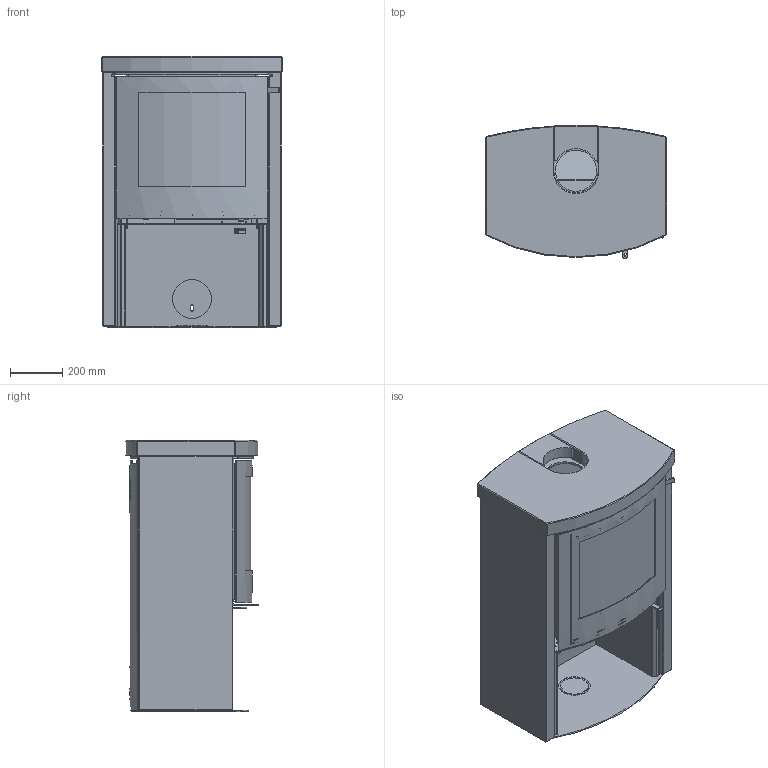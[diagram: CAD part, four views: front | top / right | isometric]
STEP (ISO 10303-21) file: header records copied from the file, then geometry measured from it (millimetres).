
FILE_DESCRIPTION(/* description */ (''),/* implementation_level */ '2;1');
FILE_NAME(/* name */ '833 Q-Tee II SST Classic TO.stp',/* time_stamp */ '2025-02-15T11:28:31+01:00',/* author */ ('pch'),/* organization */ (''),/* preprocessor_version */ 'ST-DEVELOPER v20',/* originating_system */ 'Autodesk Inventor 2025',/* authorisation */ '');
FILE_SCHEMA (('AUTOMOTIVE_DESIGN { 1 0 10303 214 3 1 1 }'));
Products named in the file (1): 833 Q-Tee II SST Classic TO
Bounding box: 696 x 509.74 x 1041 mm (x, y, z)
Volume: 1258176.7 mm3; surface area: 9578273.7 mm2
Topology: 4 solids, 6 shells, 2729 faces, 7756 edges, 5019 vertices
Faces by surface type: plane 1602, cylinder 664, bspline 445, cone 18
Full cylindrical faces by diameter (mm): 0.1 x3, 3.242 x3, 4.134 x6, 4.2 x5, 4.917 x3, 5 x17, 5.5 x2, 6 x4, 6.4 x1, 7 x5, 7.4 x1, 8 x6, 10.1 x2, 18 x1, 25 x3, 30 x1, 40 x10, 110 x1, 111 x1, 120 x1, 153.5 x1, 158 x1
Entity records: 95426 total; most frequent: CARTESIAN_POINT 23029, ORIENTED_EDGE 15512, DIRECTION 12702, EDGE_CURVE 7756, LINE 5474, VECTOR 5474, VERTEX_POINT 5027, AXIS2_PLACEMENT_3D 3614
